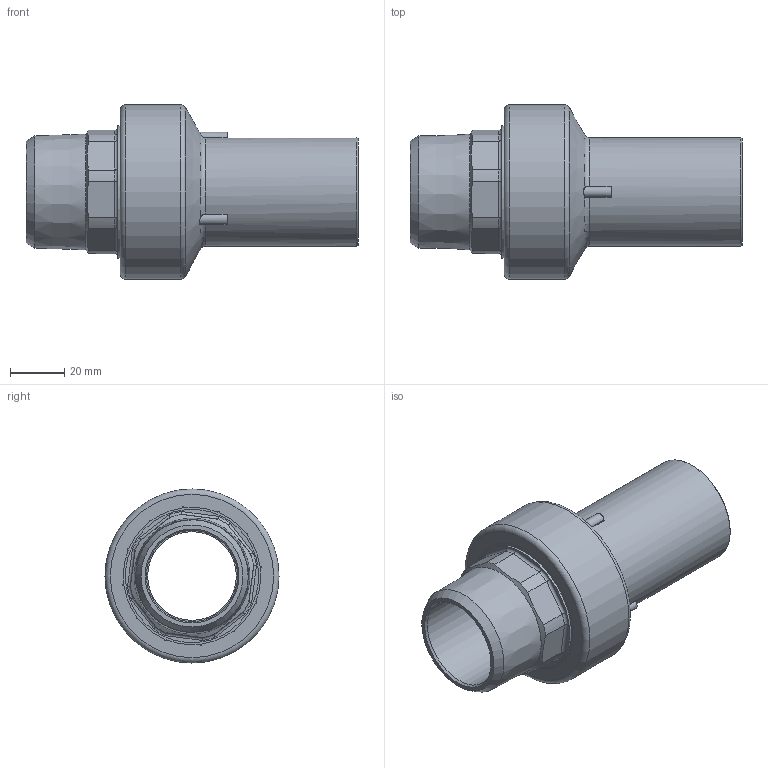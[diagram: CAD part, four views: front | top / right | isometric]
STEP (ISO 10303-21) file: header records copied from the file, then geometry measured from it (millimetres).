
FILE_DESCRIPTION(/* description */ ('Unknown'),/* implementation_level */ '2;1');
FILE_NAME(/* name */ 'RTOMP040C',/* time_stamp */ '2021-03-01T17:12:17+01:00',/* author */ ('Unknown'),/* organization */ ('Unknown'),/* preprocessor_version */ 'ST-DEVELOPER v16.7',/* originating_system */ 'Solid Edge',/* authorisation */ 'Unknown');
FILE_SCHEMA (('AUTOMOTIVE_DESIGN {1 0 10303 214 3 1 1}'));
Length unit declared in the file: millimetre
Products named in the file (3): RTOMP040C; Parte PE 040; IOM040C
Assembly tree (2 placements, depth 2):
  RTOMP040C
    Parte PE 040
    IOM040C
Bounding box: 122 x 64 x 64 mm (x, y, z)
Volume: 106658.9 mm3; surface area: 48428 mm2
Topology: 2 solids, 2 shells, 498 faces, 1302 edges, 810 vertices
Faces by surface type: cylinder 211, plane 99, bspline 87, cone 65, torus 26, sphere 10
Full cylindrical faces by diameter (mm): 32.6 x1, 33.5 x1, 38 x2, 40 x1, 41.7 x1, 42 x2, 49 x1, 49.5 x2, 54.5 x4, 64 x1
Entity records: 19438 total; most frequent: CARTESIAN_POINT 6637, ORIENTED_EDGE 2470, DIRECTION 2076, EDGE_CURVE 1235, AXIS2_PLACEMENT_3D 920, VERTEX_POINT 787, EDGE_LOOP 548, FACE_BOUND 548
